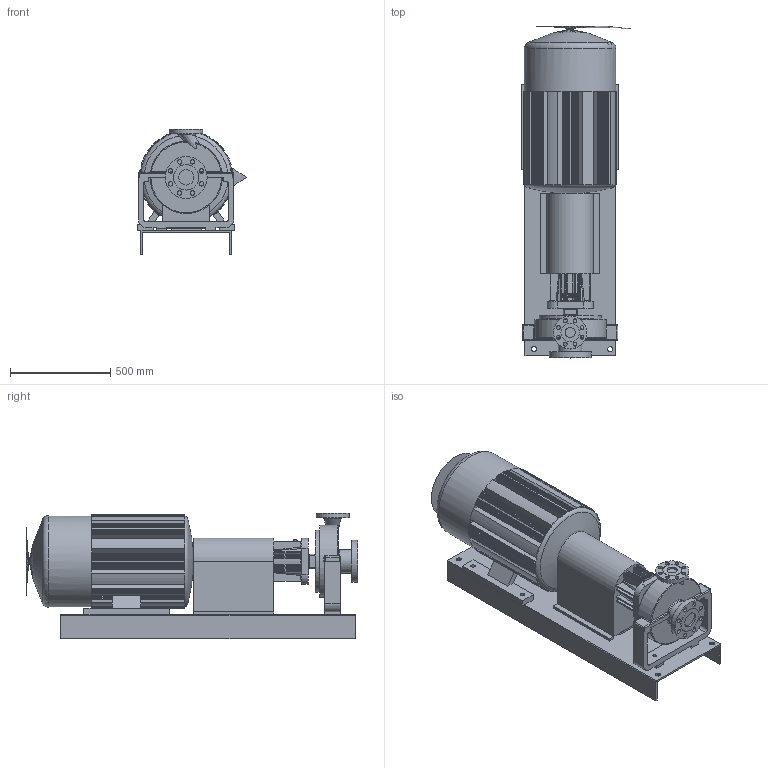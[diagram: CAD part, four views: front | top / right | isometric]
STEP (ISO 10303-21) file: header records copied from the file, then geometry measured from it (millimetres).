
FILE_DESCRIPTION(/* description */ ('Unknown'),/* implementation_level */ '2;1');
FILE_NAME(/* name */ 'CTP 2x3x10 405TS',/* time_stamp */ '2016-02-18T11:25:54+01:00',/* author */ ('Unknown'),/* organization */ ('Unknown'),/* preprocessor_version */ 'ST-DEVELOPER v16',/* originating_system */ 'DEX',/* authorisation */ $);
FILE_SCHEMA (('AUTOMOTIVE_DESIGN { 1 0 10303 214 3 1 1 }','AUTOMOTIVE_DESIGN {1 0 10303 214 3 1 1}'));
Products named in the file (1): Maatschets3D CTP
Bounding box: 540.84 x 1657.7 x 628.65 mm (x, y, z)
Volume: 107044098.2 mm3; surface area: 8567482.8 mm2
Topology: 1 solids, 1 shells, 1674 faces, 4290 edges, 2571 vertices
Faces by surface type: plane 1175, cylinder 305, bspline 139, sphere 31, torus 22, cone 2
Full cylindrical faces by diameter (mm): 16 x2, 19.05 x8, 20.574 x4, 22.225 x8, 25 x4, 50.8 x1, 63.975 x1, 76.2 x1, 92.075 x1, 117 x1, 127 x1, 165.1 x1, 209.55 x1, 235 x1, 280 x1, 309 x1, 361 x1, 457.2 x1
Entity records: 68091 total; most frequent: CARTESIAN_POINT 16719, ORIENTED_EDGE 8304, DIRECTION 8183, EDGE_CURVE 4152, AXIS2_PLACEMENT_3D 2757, LINE 2669, VECTOR 2669, VERTEX_POINT 2541
